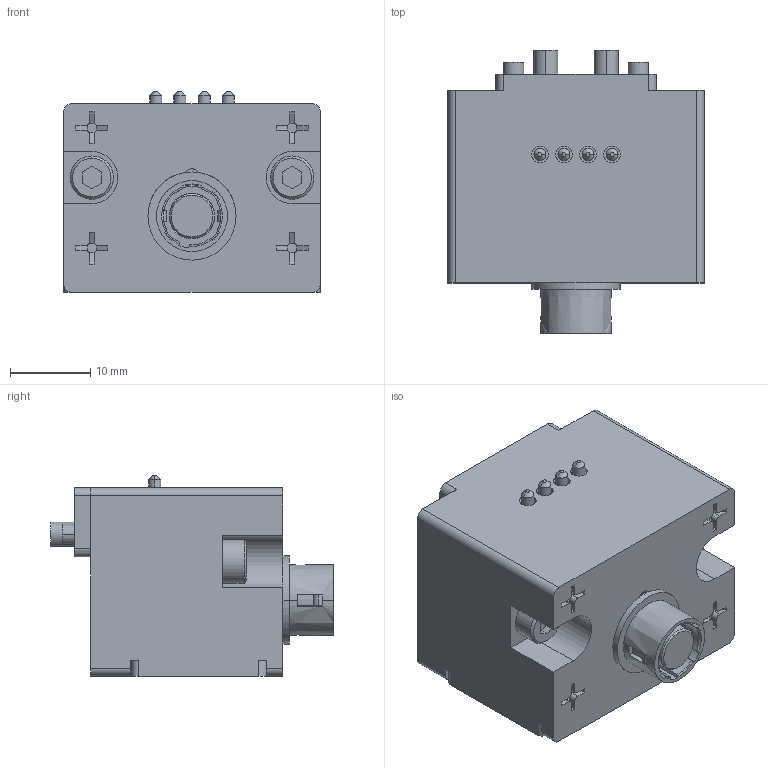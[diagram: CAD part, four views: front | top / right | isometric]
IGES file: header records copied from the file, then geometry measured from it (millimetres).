
Start section: 3D InterOp IGES (v. 2022 1.0.0), Spatial Corp. Copyright (c) 1999-2020.
Global section: file name: KHB-1HS-D14C_ver1.igs; native system: Spatial Corp.; preprocessor: 3D InterOp GENERIC/IGES 3.0; author: Noname; organization: Noname; date: 20260424.085521; units: millimetre
Bounding box: 32 x 35.3 x 25 mm (x, y, z)
Surface area: 6576.6 mm2 (no closed solid volume)
Topology: 0 solids, 0 shells, 630 faces, 3174 edges, 3173 vertices
Faces by surface type: extrusion 390, revolution 240
